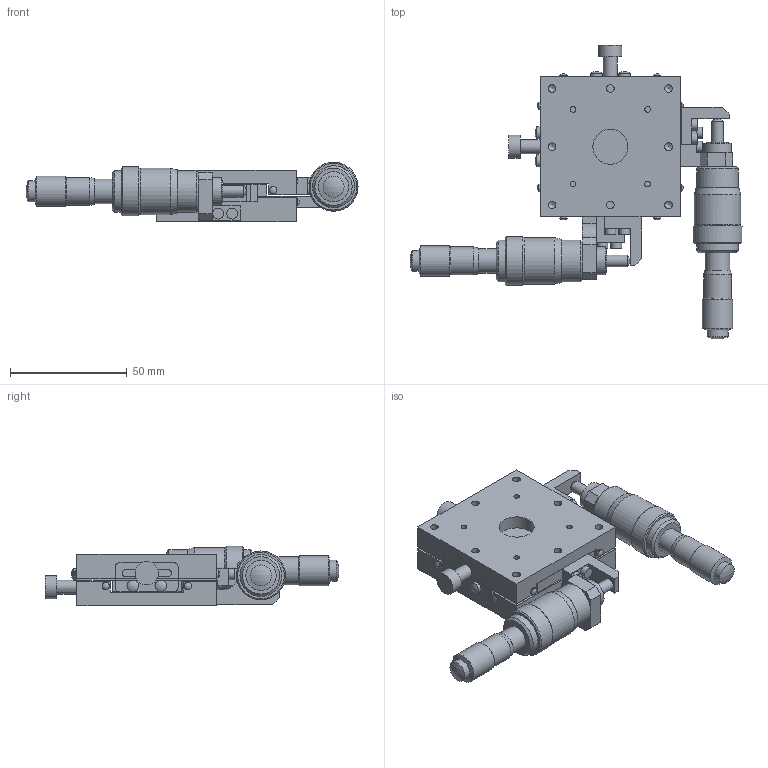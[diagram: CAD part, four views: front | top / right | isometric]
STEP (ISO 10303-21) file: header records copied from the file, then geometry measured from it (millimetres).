
FILE_DESCRIPTION( ( 'STEP AP214' ), '1' );
FILE_NAME( 'C:/Project/3D_B23-60DR-配布-070508.stp', '2007-05-08T10:43:04', ( ' ' ), ( ' ' ), 'XStep 1.0', ' ', ' ' );
FILE_SCHEMA( ( 'automotive_design' ) );
Length unit declared in the file: millimetre
Products named in the file (5): 1; 2; 3; 4; 5
Bounding box: 142.46 x 126.11 x 25.5 mm (x, y, z)
Volume: 111113.5 mm3; surface area: 50322.3 mm2
Topology: 5 solids, 5 shells, 273 faces, 655 edges, 431 vertices
Faces by surface type: plane 142, cylinder 92, cone 23, sphere 16
Full cylindrical faces by diameter (mm): 2.5 x4, 3 x2, 3.2 x8, 3.3 x14, 4.5 x4, 4.7 x8, 5 x8, 6 x2, 8 x4, 9 x2, 9.5 x2, 10 x2, 10.5 x4, 12 x4, 13 x2, 15 x1, 18 x4, 20 x2, 21 x2
Entity records: 9302 total; most frequent: DIRECTION 1252, CARTESIAN_POINT 1166, ORIENTED_EDGE 1004, EDGE_CURVE 502, AXIS2_PLACEMENT_3D 472, EDGE_LOOP 444, VERTEX_POINT 386, FACE_OUTER_BOUND 352
